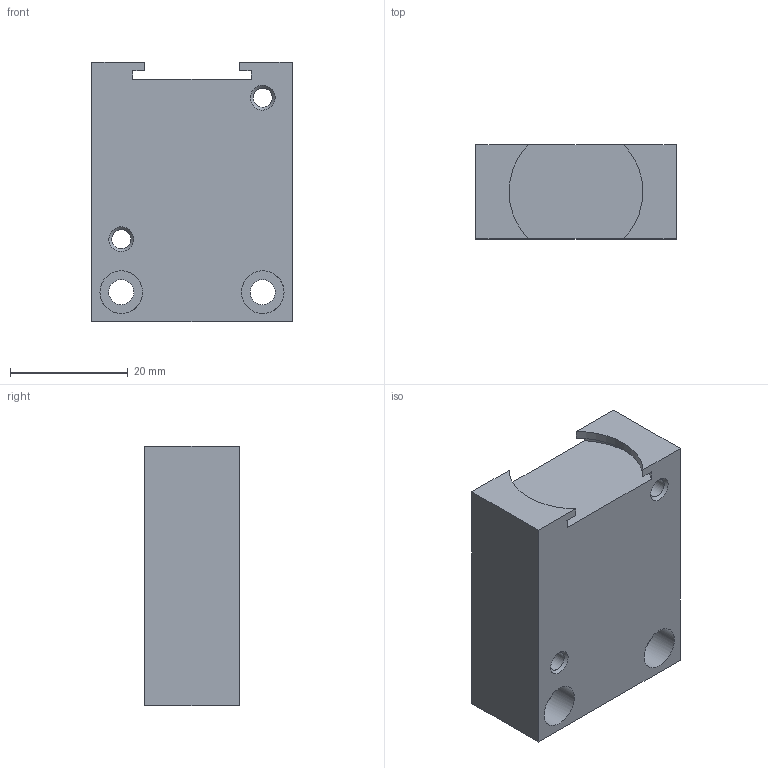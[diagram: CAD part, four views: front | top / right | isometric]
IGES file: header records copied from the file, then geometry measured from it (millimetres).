
Global section: file name: 300_07_00; native system: Autodesk Inventor 2014; preprocessor: unknown; author: A. Manieri; organization: Pneumax S.p.A.; date: 20161004.165319; units: millimetre
Bounding box: 34 x 16 x 44 mm (x, y, z)
Volume: 20850.6 mm3; surface area: 6786.2 mm2
Topology: 1 solids, 1 shells, 34 faces, 90 edges, 64 vertices
Faces by surface type: bspline 34
